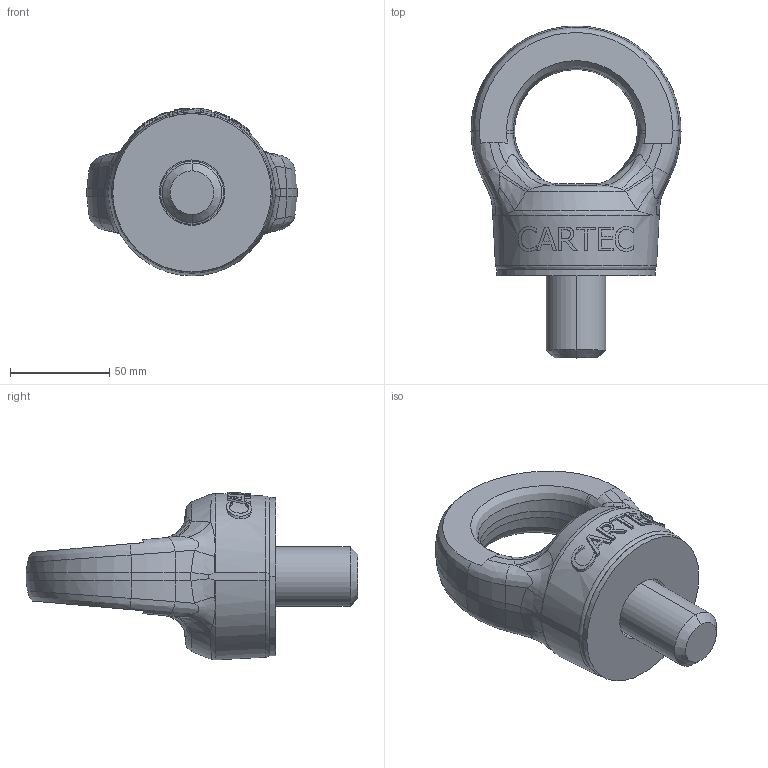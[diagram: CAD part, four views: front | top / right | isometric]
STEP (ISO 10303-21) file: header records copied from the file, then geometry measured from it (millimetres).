
FILE_DESCRIPTION(('STEP AP214'),'1');
FILE_NAME('c817x30.stp','2017-03-27T13:11:38',('TraceParts'),('TraceParts S.A.'),'Spatial InterOp 3D',' ',' ');
FILE_SCHEMA(('automotive_design'));
Length unit declared in the file: millimetre
Products named in the file (3): c817x30_1; c817x30_2; c817x30_3
Bounding box: 106 x 167.5 x 84.66 mm (x, y, z)
Volume: 370658.6 mm3; surface area: 63035.4 mm2
Topology: 3 solids, 3 shells, 235 faces, 616 edges, 394 vertices
Faces by surface type: bspline 127, plane 78, cylinder 24, torus 4, cone 2
Entity records: 20376 total; most frequent: CARTESIAN_POINT 13502, ORIENTED_EDGE 1230, DIRECTION 705, EDGE_CURVE 615, VERTEX_POINT 394, B_SPLINE_CURVE_WITH_KNOTS 279, AXIS2_PLACEMENT_3D 258, EDGE_LOOP 249
